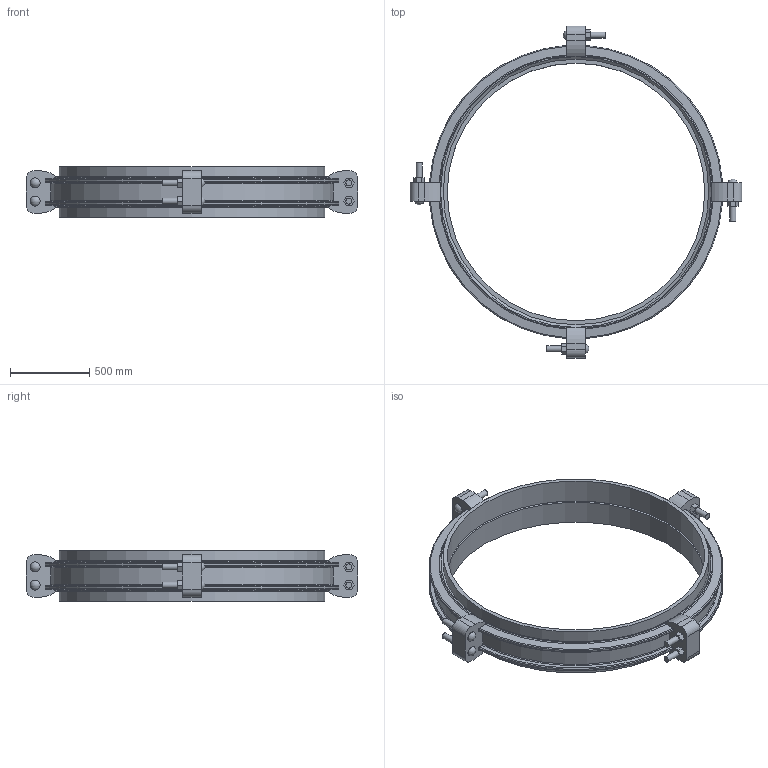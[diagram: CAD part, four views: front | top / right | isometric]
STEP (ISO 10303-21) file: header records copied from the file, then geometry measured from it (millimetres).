
FILE_DESCRIPTION(/* description */ ('VIC COUPLING FLEX STYLE W77 AGS VIC-RING ','CAx-IF Rec.Pracs.---Representation and Presentation of Product Manufacturing Information (PMI)---4.0---2014-10-13'),/* implementation_level */ '2;1');
FILE_NAME(/* name */ 'C:\Users\Vjadhav\AppData\Roaming\Autodesk\ApplicationPlugins\Victaulic.Temp\A52\Victaulic_Vic-Ring_Coupling Flexible_Style W77 (AGR)_66 (1650).stp',/* time_stamp */ '2021-12-20T11:07:15+06:00',/* author */ ('Vjadhav'),/* organization */ ('Victaulic'),/* preprocessor_version */ 'ST-DEVELOPER v17.2',/* originating_system */ 'Autodesk Inventor 2019',/* authorisation */ '');
FILE_SCHEMA (('AP242_MANAGED_MODEL_BASED_3D_ENGINEERING_MIM_LF { 1 0 10303 442 1 1 4 }'));
Length unit declared in the file: inch
Products named in the file (3): W77 VR-66.0; W77-VR-66.0; W77 VR-66.0_1
Assembly tree (3 placements, depth 2):
  W77 VR-66.0
    W77-VR-66.0
    W77 VR-66.0_1  x2
Bounding box: 2095.5 x 2095.5 x 316.74 mm (x, y, z)
Volume: 122967819.1 mm3; surface area: 7799417.3 mm2
Topology: 3 solids, 11 shells, 279 faces, 745 edges, 512 vertices
Faces by surface type: plane 138, cylinder 83, torus 32, cone 18, sphere 8
Full cylindrical faces by diameter (mm): 38.1 x16, 63.5 x8, 1625.6 x2, 1657.35 x1, 1676.4 x4
Entity records: 10061 total; most frequent: CARTESIAN_POINT 2672, ORIENTED_EDGE 1470, DIRECTION 1457, EDGE_CURVE 735, AXIS2_PLACEMENT_3D 537, VERTEX_POINT 504, LINE 383, VECTOR 383
